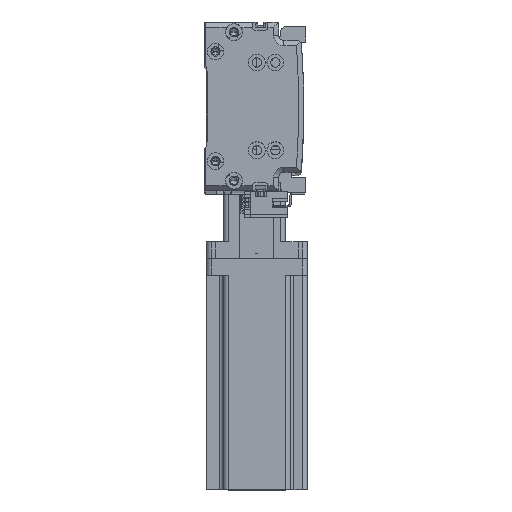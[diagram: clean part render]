
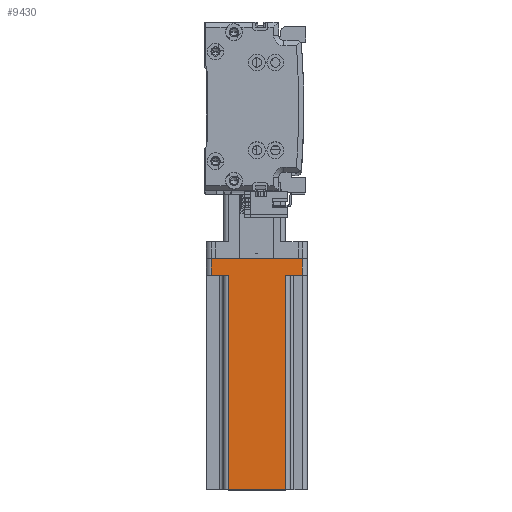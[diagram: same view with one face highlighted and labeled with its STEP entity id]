
A CAD part, top view. The second image highlights one B-rep face of the part: STEP entity #9430.
In plain terms, the highlighted planar face has unit normal (0, 0, 1) as drawn and (0, 1, 0) by its records, which use the part's own axes.
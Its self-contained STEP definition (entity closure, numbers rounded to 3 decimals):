
#9 = LINE ( 'NONE', #34198, #9633 ) ;
#425 = VERTEX_POINT ( 'NONE', #40344 ) ;
#1047 = CARTESIAN_POINT ( 'NONE',  ( -17., 30., 10. ) ) ;
#1077 = LINE ( 'NONE', #43671, #43879 ) ;
#1536 = VERTEX_POINT ( 'NONE', #10103 ) ;
#1605 = EDGE_CURVE ( 'NONE', #49087, #48925, #45856, .T. ) ;
#1914 = CARTESIAN_POINT ( 'NONE',  ( -27., 30., 10. ) ) ;
#2355 = VERTEX_POINT ( 'NONE', #27479 ) ;
#3501 = CARTESIAN_POINT ( 'NONE',  ( 30., 30., 137. ) ) ;
#5185 = DIRECTION ( 'NONE',  ( 1., 0., 0. ) ) ;
#5204 = ORIENTED_EDGE ( 'NONE', *, *, #41734, .T. ) ;
#5616 = FACE_OUTER_BOUND ( 'NONE', #19998, .T. ) ;
#6972 = CARTESIAN_POINT ( 'NONE',  ( -17., 30., 137. ) ) ;
#7628 = DIRECTION ( 'NONE',  ( -1., 0., 0. ) ) ;
#7633 = DIRECTION ( 'NONE',  ( 1., 0., 0. ) ) ;
#8240 = CARTESIAN_POINT ( 'NONE',  ( 20., 30., 10. ) ) ;
#9179 = LINE ( 'NONE', #39845, #20246 ) ;
#9430 = ADVANCED_FACE ( 'NONE', ( #5616 ), #11606, .F. ) ;
#9537 = ORIENTED_EDGE ( 'NONE', *, *, #18176, .T. ) ;
#9587 = LINE ( 'NONE', #17695, #30390 ) ;
#9633 = VECTOR ( 'NONE', #5185, 1000. ) ;
#9660 = EDGE_CURVE ( 'NONE', #49087, #425, #1077, .T. ) ;
#10103 = CARTESIAN_POINT ( 'NONE',  ( -17., 30., 137. ) ) ;
#10209 = ORIENTED_EDGE ( 'NONE', *, *, #1605, .F. ) ;
#11606 = PLANE ( 'NONE',  #30498 ) ;
#11726 = EDGE_CURVE ( 'NONE', #11861, #46380, #9, .T. ) ;
#11861 = VERTEX_POINT ( 'NONE', #1914 ) ;
#14003 = VECTOR ( 'NONE', #7628, 1000. ) ;
#14257 = EDGE_CURVE ( 'NONE', #2355, #11861, #22931, .T. ) ;
#14739 = ORIENTED_EDGE ( 'NONE', *, *, #14257, .T. ) ;
#15094 = LINE ( 'NONE', #6972, #37205 ) ;
#15104 = DIRECTION ( 'NONE',  ( -1., 0., 0. ) ) ;
#15236 = ORIENTED_EDGE ( 'NONE', *, *, #9660, .T. ) ;
#16374 = EDGE_CURVE ( 'NONE', #46380, #1536, #15094, .T. ) ;
#17695 = CARTESIAN_POINT ( 'NONE',  ( 30., 30., 137. ) ) ;
#18176 = EDGE_CURVE ( 'NONE', #30442, #48925, #29059, .T. ) ;
#19005 = DIRECTION ( 'NONE',  ( 0., 0., 1. ) ) ;
#19120 = ORIENTED_EDGE ( 'NONE', *, *, #11726, .T. ) ;
#19998 = EDGE_LOOP ( 'NONE', ( #19120, #46034, #48713, #9537, #10209, #15236, #5204, #14739 ) ) ;
#20246 = VECTOR ( 'NONE', #15104, 1000. ) ;
#21625 = VECTOR ( 'NONE', #19005, 1000. ) ;
#21826 = DIRECTION ( 'NONE',  ( -1., 0., 0. ) ) ;
#22931 = LINE ( 'NONE', #23149, #21625 ) ;
#23149 = CARTESIAN_POINT ( 'NONE',  ( -27., 30., 137. ) ) ;
#27479 = CARTESIAN_POINT ( 'NONE',  ( -27., 30., 0. ) ) ;
#28708 = CARTESIAN_POINT ( 'NONE',  ( 17., 30., 137. ) ) ;
#29059 = LINE ( 'NONE', #28708, #49878 ) ;
#30390 = VECTOR ( 'NONE', #21826, 1000. ) ;
#30442 = VERTEX_POINT ( 'NONE', #32880 ) ;
#30498 = AXIS2_PLACEMENT_3D ( 'NONE', #3501, #32509, #7633 ) ;
#32509 = DIRECTION ( 'NONE',  ( 0., -1., 0. ) ) ;
#32880 = CARTESIAN_POINT ( 'NONE',  ( 17., 30., 137. ) ) ;
#34198 = CARTESIAN_POINT ( 'NONE',  ( -20., 30., 10. ) ) ;
#36018 = DIRECTION ( 'NONE',  ( 0., 0., 1. ) ) ;
#36367 = CARTESIAN_POINT ( 'NONE',  ( 17., 30., 10. ) ) ;
#37205 = VECTOR ( 'NONE', #36018, 1000. ) ;
#38989 = DIRECTION ( 'NONE',  ( 0., 0., -1. ) ) ;
#39845 = CARTESIAN_POINT ( 'NONE',  ( 30., 30., 0. ) ) ;
#40344 = CARTESIAN_POINT ( 'NONE',  ( 27., 30., 0. ) ) ;
#41734 = EDGE_CURVE ( 'NONE', #425, #2355, #9179, .T. ) ;
#43671 = CARTESIAN_POINT ( 'NONE',  ( 27., 30., 137. ) ) ;
#43879 = VECTOR ( 'NONE', #38989, 1000. ) ;
#45856 = LINE ( 'NONE', #8240, #14003 ) ;
#46034 = ORIENTED_EDGE ( 'NONE', *, *, #16374, .T. ) ;
#46380 = VERTEX_POINT ( 'NONE', #1047 ) ;
#48578 = EDGE_CURVE ( 'NONE', #30442, #1536, #9587, .T. ) ;
#48713 = ORIENTED_EDGE ( 'NONE', *, *, #48578, .F. ) ;
#48925 = VERTEX_POINT ( 'NONE', #36367 ) ;
#49087 = VERTEX_POINT ( 'NONE', #50901 ) ;
#49443 = DIRECTION ( 'NONE',  ( 0., 0., -1. ) ) ;
#49878 = VECTOR ( 'NONE', #49443, 1000. ) ;
#50901 = CARTESIAN_POINT ( 'NONE',  ( 27., 30., 10. ) ) ;
